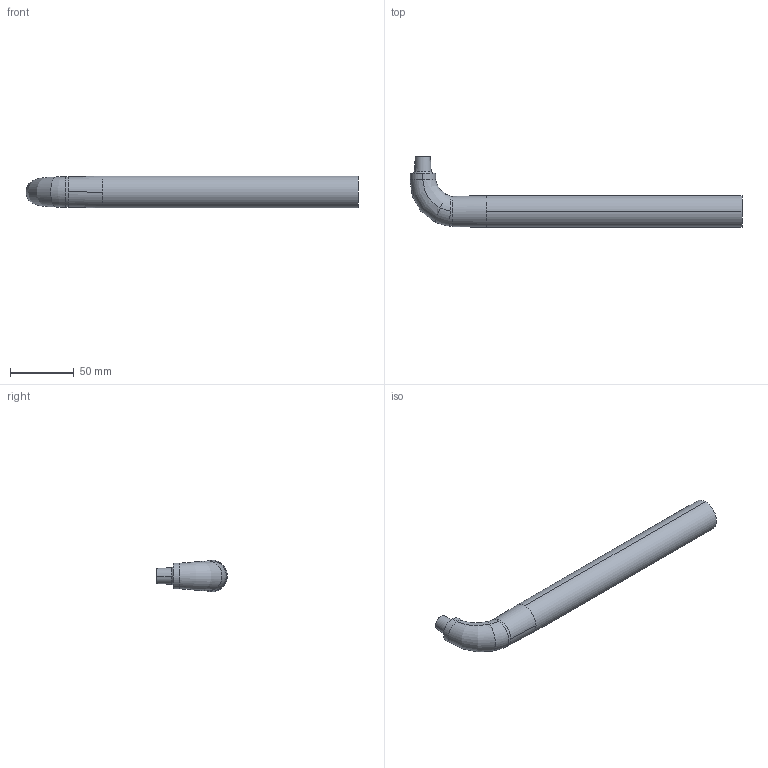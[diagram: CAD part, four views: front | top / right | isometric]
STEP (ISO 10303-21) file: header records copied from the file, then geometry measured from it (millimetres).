
FILE_DESCRIPTION( (''), '2;1');
FILE_NAME ('SY-2080-09_TB-25250-90-C2.stp','2022-04-09T20:41:32',(''),(''),'spGate 18.9.3 (****-****-****-****)','','');
FILE_SCHEMA (('AUTOMOTIVE_DESIGN'));
Length unit declared in the file: millimetre
Products named in the file (19): Assembly; SY-2080-09_TB-25250-90-C2-prt0; SY-2080-09_TB-25250-90-C2-prt1; SY-2080-09_TB-25250-90-C2-prt2; SY-2080-09_TB-25250-90-C2-prt3; SY-2080-09_TB-25250-90-C2-prt4; SY-2080-09_TB-25250-90-C2-prt5; SY-2080-09_TB-25250-90-C2-prt6; SY-2080-09_TB-25250-90-C2-prt7; SY-2080-09_TB-25250-90-C2-prt8; SY-2080-09_TB-25250-90-C2-prt9; SY-2080-09_TB-25250-90-C2-prt10; SY-2080-09_TB-25250-90-C2-prt11; SY-2080-09_TB-25250-90-C2-prt12; SY-2080-09_TB-25250-90-C2-prt13; SY-2080-09_TB-25250-90-C2-prt14; SY-2080-09_TB-25250-90-C2-prt15; SY-2080-09_TB-25250-90-C2-prt16; SY-2080-09_TB-25250-90-C2-prt17
Assembly tree (18 placements, depth 2):
  Assembly
    SY-2080-09_TB-25250-90-C2-prt0
    SY-2080-09_TB-25250-90-C2-prt1
    SY-2080-09_TB-25250-90-C2-prt2
    SY-2080-09_TB-25250-90-C2-prt3
    SY-2080-09_TB-25250-90-C2-prt4
    SY-2080-09_TB-25250-90-C2-prt5
    SY-2080-09_TB-25250-90-C2-prt6
    SY-2080-09_TB-25250-90-C2-prt7
    SY-2080-09_TB-25250-90-C2-prt8
    SY-2080-09_TB-25250-90-C2-prt9
    SY-2080-09_TB-25250-90-C2-prt10
    SY-2080-09_TB-25250-90-C2-prt11
    SY-2080-09_TB-25250-90-C2-prt12
    SY-2080-09_TB-25250-90-C2-prt13
    SY-2080-09_TB-25250-90-C2-prt14
    SY-2080-09_TB-25250-90-C2-prt15
    SY-2080-09_TB-25250-90-C2-prt16
    SY-2080-09_TB-25250-90-C2-prt17
Bounding box: 260 x 55.5 x 25 mm (x, y, z)
Volume: 108920.1 mm3; surface area: 30161.7 mm2
Topology: 1 solids, 1 shells, 37 faces, 99 edges, 85 vertices
Faces by surface type: bspline 20, cylinder 10, plane 7
Entity records: 4208 total; most frequent: CARTESIAN_POINT 2243, DIRECTION 218, ORIENTED_EDGE 164, COLOUR_RGB 137, PRESENTATION_STYLE_ASSIGNMENT 137, STYLED_ITEM 137, AXIS2_PLACEMENT_3D 102, DRAUGHTING_PRE_DEFINED_CURVE_FONT 99
